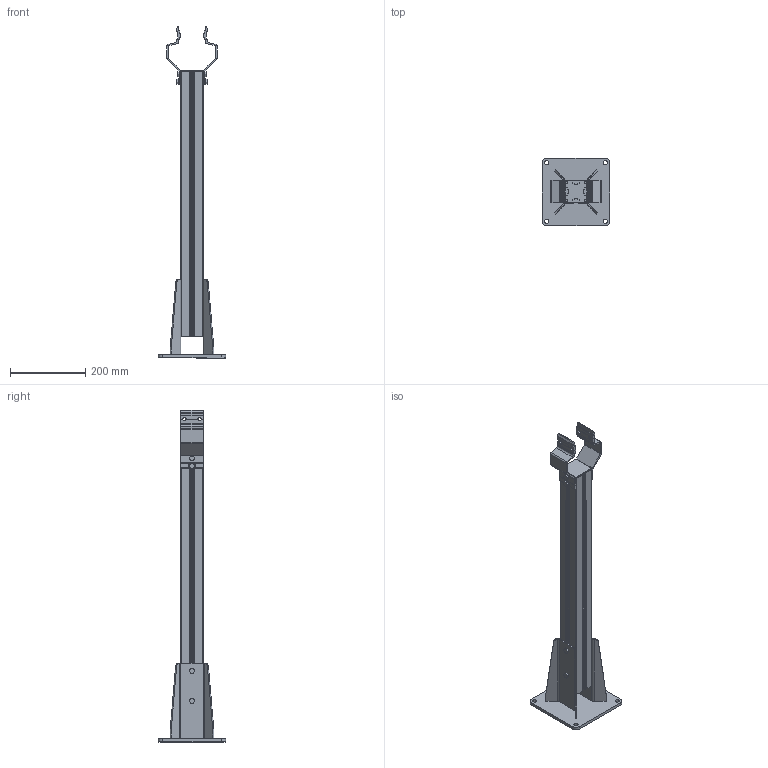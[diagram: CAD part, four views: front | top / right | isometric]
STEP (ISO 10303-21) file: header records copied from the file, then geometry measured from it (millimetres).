
FILE_DESCRIPTION(/* description */ (''),/* implementation_level */ '2;1');
FILE_NAME(/* name */ '\\carryline.intra\privat\users\mathias\Desktop\Tillfälliga filer\Assembly2.stp',/* time_stamp */ '2018-11-20T08:44:12+01:00',/* author */ ('Mathias'),/* organization */ (''),/* preprocessor_version */ 'ST-DEVELOPER v17',/* originating_system */ 'Autodesk Inventor 2018',/* authorisation */ '');
FILE_SCHEMA (('AUTOMOTIVE_DESIGN { 1 0 10303 214 3 1 1 }'));
Length unit declared in the file: millimetre
Products named in the file (10): Assembly2; 100-1350; 100-1015-01; 100-1225; 100-1141; 16827_2; 16827_1; 100-2040; ISO 4018 - M8 x 16; DIN 125 - A 8,4
Assembly tree (19 placements, depth 4):
  Assembly2
    100-1350
      100-1015-01
      100-1225  x2
      100-1141
        16827_1  x2
        16827_2
      100-2040
    ISO 4018 - M8 x 16  x8
    DIN 125 - A 8,4  x2
Bounding box: 180 x 180 x 885 mm (x, y, z)
Volume: 2619783 mm3; surface area: 516882.1 mm2
Topology: 17 solids, 17 shells, 512 faces, 1344 edges, 870 vertices
Faces by surface type: plane 310, cylinder 130, cone 56, torus 12, sphere 4
Full cylindrical faces by diameter (mm): 5.5 x4, 8 x8, 8.4 x2, 8.5 x6, 9 x4, 11 x4, 16 x2
Entity records: 9553 total; most frequent: CARTESIAN_POINT 1632, DIRECTION 1629, ORIENTED_EDGE 1562, EDGE_CURVE 781, AXIS2_PLACEMENT_3D 544, LINE 541, VECTOR 541, VERTEX_POINT 511
